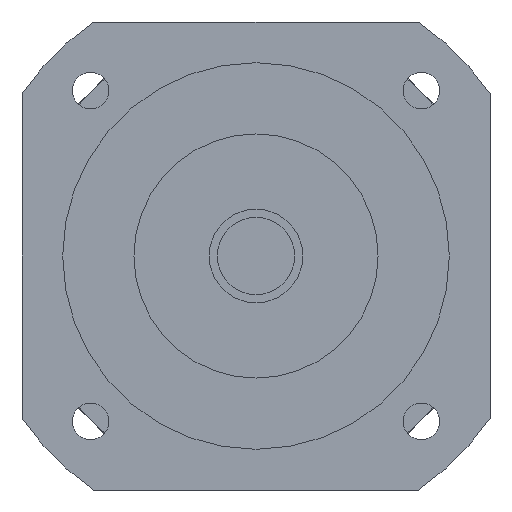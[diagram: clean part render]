
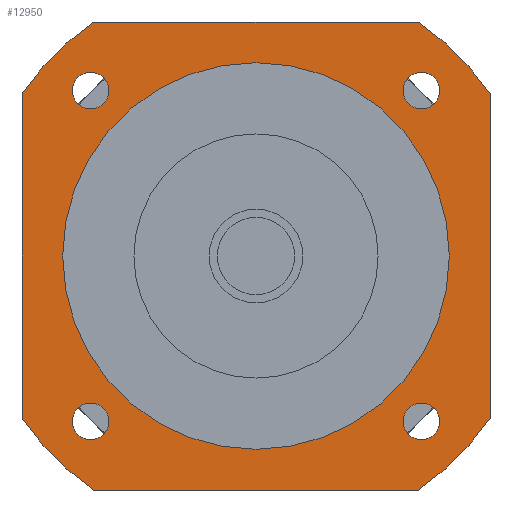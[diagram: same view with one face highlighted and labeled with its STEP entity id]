
A CAD part, left-side view. The second image highlights one B-rep face of the part: STEP entity #12950.
In plain terms, the highlighted planar face has unit normal (-1, 0, 0) as drawn and (0, 0, -1) by its records, which use the part's own axes.
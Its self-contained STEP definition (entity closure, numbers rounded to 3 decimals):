
#11280=CARTESIAN_POINT('',(36.159,-40.659,-47.));
#11290=VERTEX_POINT('',#11280);
#11320=CARTESIAN_POINT('',(40.659,-40.659,-47.));
#11330=DIRECTION('',(0.,0.,-1.));
#11340=DIRECTION('',(1.,0.,0.));
#11350=AXIS2_PLACEMENT_3D('',#11320,#11330,#11340);
#11360=CIRCLE('',#11350,4.5);
#11370=CARTESIAN_POINT('',(45.159,-40.659,-47.));
#11380=VERTEX_POINT('',#11370);
#11390=EDGE_CURVE('',#11380,#11290,#11360,.T.);
#11510=CARTESIAN_POINT('',(57.5,57.5,-47.));
#11520=DIRECTION('',(0.,0.,-1.));
#11530=DIRECTION('',(1.,0.,0.));
#11540=AXIS2_PLACEMENT_3D('',#11510,#11520,#11530);
#11550=PLANE('',#11540);
#11560=CARTESIAN_POINT('',(-40.659,-40.659,-47.));
#11570=DIRECTION('',(0.,0.,-1.));
#11580=DIRECTION('',(0.,-1.,0.));
#11590=AXIS2_PLACEMENT_3D('',#11560,#11570,#11580);
#11600=CIRCLE('',#11590,4.5);
#11610=CARTESIAN_POINT('',(-40.659,-45.159,-47.));
#11620=VERTEX_POINT('',#11610);
#11630=CARTESIAN_POINT('',(-40.659,-36.159,-47.));
#11640=VERTEX_POINT('',#11630);
#11650=EDGE_CURVE('',#11620,#11640,#11600,.T.);
#11660=ORIENTED_EDGE('',*,*,#11650,.F.);
#11670=EDGE_CURVE('',#11640,#11620,#11600,.T.);
#11680=ORIENTED_EDGE('',*,*,#11670,.F.);
#11690=EDGE_LOOP('',(#11680,#11660));
#11700=FACE_BOUND('',#11690,.T.);
#11710=CARTESIAN_POINT('',(-40.659,40.659,-47.));
#11720=DIRECTION('',(0.,0.,-1.));
#11730=DIRECTION('',(-1.,0.,0.));
#11740=AXIS2_PLACEMENT_3D('',#11710,#11720,#11730);
#11750=CIRCLE('',#11740,4.5);
#11760=CARTESIAN_POINT('',(-45.159,40.659,-47.));
#11770=VERTEX_POINT('',#11760);
#11780=CARTESIAN_POINT('',(-36.159,40.659,-47.));
#11790=VERTEX_POINT('',#11780);
#11800=EDGE_CURVE('',#11770,#11790,#11750,.T.);
#11810=ORIENTED_EDGE('',*,*,#11800,.F.);
#11820=EDGE_CURVE('',#11790,#11770,#11750,.T.);
#11830=ORIENTED_EDGE('',*,*,#11820,.F.);
#11840=EDGE_LOOP('',(#11830,#11810));
#11850=FACE_BOUND('',#11840,.T.);
#11860=CARTESIAN_POINT('',(40.659,40.659,-47.));
#11870=DIRECTION('',(0.,0.,-1.));
#11880=DIRECTION('',(0.,1.,0.));
#11890=AXIS2_PLACEMENT_3D('',#11860,#11870,#11880);
#11900=CIRCLE('',#11890,4.5);
#11910=CARTESIAN_POINT('',(40.659,45.159,-47.));
#11920=VERTEX_POINT('',#11910);
#11930=CARTESIAN_POINT('',(40.659,36.159,-47.));
#11940=VERTEX_POINT('',#11930);
#11950=EDGE_CURVE('',#11920,#11940,#11900,.T.);
#11960=ORIENTED_EDGE('',*,*,#11950,.F.);
#11970=EDGE_CURVE('',#11940,#11920,#11900,.T.);
#11980=ORIENTED_EDGE('',*,*,#11970,.F.);
#11990=EDGE_LOOP('',(#11980,#11960));
#12000=FACE_BOUND('',#11990,.T.);
#12010=CARTESIAN_POINT('',(0.,0.,
-47.));
#12020=DIRECTION('',(0.,0.,1.));
#12030=DIRECTION('',(0.,1.,0.));
#12040=AXIS2_PLACEMENT_3D('',#12010,#12020,#12030);
#12050=CIRCLE('',#12040,47.5);
#12060=CARTESIAN_POINT('',(-47.5,0.,-47.));
#12070=VERTEX_POINT('',#12060);
#12080=CARTESIAN_POINT('',(47.5,0.,-47.));
#12090=VERTEX_POINT('',#12080);
#12100=EDGE_CURVE('',#12070,#12090,#12050,.T.);
#12110=ORIENTED_EDGE('',*,*,#12100,.T.);
#12120=CARTESIAN_POINT('',(0.,47.5,-47.));
#12130=VERTEX_POINT('',#12120);
#12140=EDGE_CURVE('',#12130,#12070,#12050,.T.);
#12150=ORIENTED_EDGE('',*,*,#12140,.T.);
#12160=EDGE_CURVE('',#12090,#12130,#12050,.T.);
#12170=ORIENTED_EDGE('',*,*,#12160,.T.);
#12180=EDGE_LOOP('',(#12170,#12150,#12110));
#12190=FACE_BOUND('',#12180,.T.);
#12200=CARTESIAN_POINT('',(-57.5,57.5,-47.));
#12210=DIRECTION('',(1.,0.,0.));
#12220=VECTOR('',#12210,1000.);
#12230=LINE('',#12200,#12220);
#12240=CARTESIAN_POINT('',(-39.922,57.5,-47.));
#12250=VERTEX_POINT('',#12240);
#12260=CARTESIAN_POINT('',(39.922,57.5,-47.));
#12270=VERTEX_POINT('',#12260);
#12280=EDGE_CURVE('',#12250,#12270,#12230,.T.);
#12290=ORIENTED_EDGE('',*,*,#12280,.T.);
#12300=CARTESIAN_POINT('',(0.,0.,
-47.));
#12310=DIRECTION('',(0.,0.,-1.));
#12320=DIRECTION('',(1.,0.,0.));
#12330=AXIS2_PLACEMENT_3D('',#12300,#12310,#12320);
#12340=CIRCLE('',#12330,70.);
#12350=CARTESIAN_POINT('',(-57.5,39.922,-47.));
#12360=VERTEX_POINT('',#12350);
#12370=EDGE_CURVE('',#12360,#12250,#12340,.T.);
#12380=ORIENTED_EDGE('',*,*,#12370,.T.);
#12390=CARTESIAN_POINT('',(-57.5,-57.5,-47.));
#12400=DIRECTION('',(0.,1.,0.));
#12410=VECTOR('',#12400,1000.);
#12420=LINE('',#12390,#12410);
#12430=CARTESIAN_POINT('',(-57.5,-39.922,-47.));
#12440=VERTEX_POINT('',#12430);
#12450=EDGE_CURVE('',#12440,#12360,#12420,.T.);
#12460=ORIENTED_EDGE('',*,*,#12450,.T.);
#12470=CARTESIAN_POINT('',(0.,0.,
-47.));
#12480=DIRECTION('',(0.,0.,-1.));
#12490=DIRECTION('',(1.,0.,0.));
#12500=AXIS2_PLACEMENT_3D('',#12470,#12480,#12490);
#12510=CIRCLE('',#12500,70.);
#12520=CARTESIAN_POINT('',(-39.922,-57.5,-47.));
#12530=VERTEX_POINT('',#12520);
#12540=EDGE_CURVE('',#12530,#12440,#12510,.T.);
#12550=ORIENTED_EDGE('',*,*,#12540,.T.);
#12560=CARTESIAN_POINT('',(57.5,-57.5,-47.));
#12570=DIRECTION('',(-1.,0.,0.));
#12580=VECTOR('',#12570,1000.);
#12590=LINE('',#12560,#12580);
#12600=CARTESIAN_POINT('',(39.922,-57.5,-47.));
#12610=VERTEX_POINT('',#12600);
#12620=EDGE_CURVE('',#12610,#12530,#12590,.T.);
#12630=ORIENTED_EDGE('',*,*,#12620,.T.);
#12640=CARTESIAN_POINT('',(0.,0.,
-47.));
#12650=DIRECTION('',(0.,0.,-1.));
#12660=DIRECTION('',(1.,0.,0.));
#12670=AXIS2_PLACEMENT_3D('',#12640,#12650,#12660);
#12680=CIRCLE('',#12670,70.);
#12690=CARTESIAN_POINT('',(57.5,-39.922,-47.));
#12700=VERTEX_POINT('',#12690);
#12710=EDGE_CURVE('',#12700,#12610,#12680,.T.);
#12720=ORIENTED_EDGE('',*,*,#12710,.T.);
#12730=CARTESIAN_POINT('',(57.5,57.5,-47.));
#12740=DIRECTION('',(0.,-1.,0.));
#12750=VECTOR('',#12740,1000.);
#12760=LINE('',#12730,#12750);
#12770=CARTESIAN_POINT('',(57.5,39.922,-47.));
#12780=VERTEX_POINT('',#12770);
#12790=EDGE_CURVE('',#12780,#12700,#12760,.T.);
#12800=ORIENTED_EDGE('',*,*,#12790,.T.);
#12810=CARTESIAN_POINT('',(0.,0.,
-47.));
#12820=DIRECTION('',(0.,0.,-1.));
#12830=DIRECTION('',(1.,0.,0.));
#12840=AXIS2_PLACEMENT_3D('',#12810,#12820,#12830);
#12850=CIRCLE('',#12840,70.);
#12860=EDGE_CURVE('',#12270,#12780,#12850,.T.);
#12870=ORIENTED_EDGE('',*,*,#12860,.T.);
#12880=EDGE_LOOP('',(#12870,#12800,#12720,#12630,#12550,#12460,#12380,
#12290));
#12890=FACE_OUTER_BOUND('',#12880,.T.);
#12900=ORIENTED_EDGE('',*,*,#11390,.F.);
#12910=EDGE_CURVE('',#11290,#11380,#11360,.T.);
#12920=ORIENTED_EDGE('',*,*,#12910,.F.);
#12930=EDGE_LOOP('',(#12920,#12900));
#12940=FACE_BOUND('',#12930,.T.);
#12950=ADVANCED_FACE('',(#11700,#11850,#12000,#12190,#12890,#12940),
#11550,.T.);
